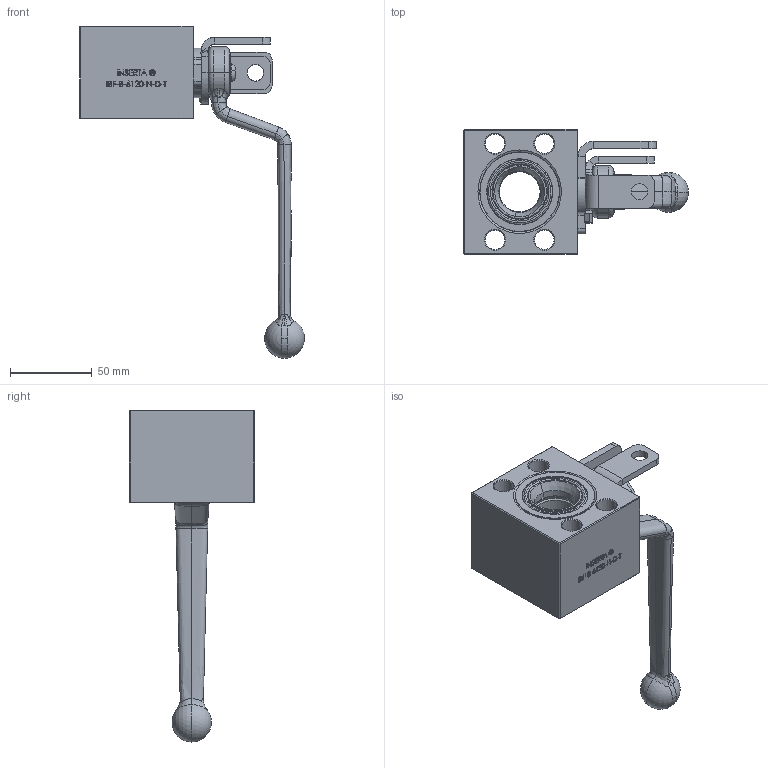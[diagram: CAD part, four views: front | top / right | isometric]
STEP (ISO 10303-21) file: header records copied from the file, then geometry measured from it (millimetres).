
FILE_DESCRIPTION (( 'STEP AP214' ), '1' );
FILE_NAME ('IBF-B-6120-N-D-T Open~.STEP', '2025-12-01T15:19:27', ( '' ), ( '' ), 'SwSTEP 2.0', 'SolidWorks 2023', '' );
FILE_SCHEMA (( 'AUTOMOTIVE_DESIGN' ));
Length unit declared in the file: inch
Products named in the file (1): IBF-B-6120-N-D-T Open~
Bounding box: 137.37 x 76.45 x 202.74 mm (x, y, z)
Volume: 298379.6 mm3; surface area: 82278.4 mm2
Topology: 2 solids, 3 shells, 1047 faces, 2902 edges, 1890 vertices
Faces by surface type: plane 503, bspline 200, cylinder 177, torus 66, cone 65, sphere 36
Entity records: 59477 total; most frequent: CARTESIAN_POINT 34643, ORIENTED_EDGE 5758, DIRECTION 4292, EDGE_CURVE 2879, VERTEX_POINT 1879, AXIS2_PLACEMENT_3D 1473, VECTOR 1346, LINE 1346
